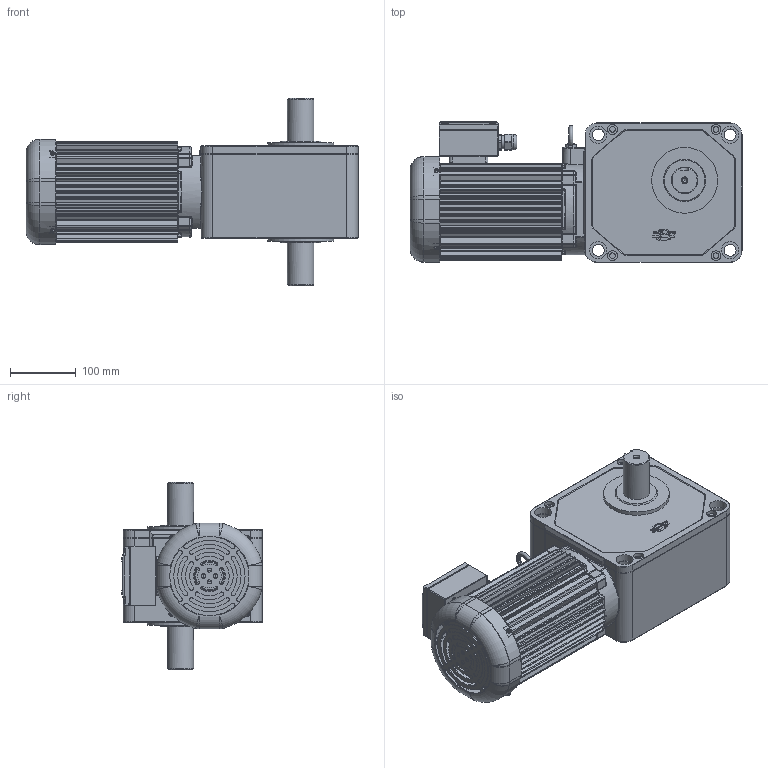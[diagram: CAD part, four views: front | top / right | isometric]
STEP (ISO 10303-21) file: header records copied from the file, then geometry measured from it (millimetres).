
FILE_DESCRIPTION(/* description */ (''),/* implementation_level */ '2;1');
FILE_NAME(/* name */ 'Z:\동력 3D 파일\PCS40B_0.75kW_3D.stp',/* time_stamp */ '2021-11-09T13:14:23+09:00',/* author */ ('jaebok'),/* organization */ (''),/* preprocessor_version */ 'ST-DEVELOPER v18.1',/* originating_system */ 'Autodesk Inventor 2022',/* authorisation */ '');
FILE_SCHEMA (('AUTOMOTIVE_DESIGN { 1 0 10303 214 3 1 1 }'));
Products named in the file (1): 부품65
Bounding box: 503.5 x 213.2 x 284 mm (x, y, z)
Volume: 4227088.2 mm3; surface area: 926217 mm2
Topology: 1 solids, 26 shells, 2186 faces, 5562 edges, 3451 vertices
Faces by surface type: plane 885, cylinder 792, bspline 226, torus 171, cone 64, sphere 48
Full cylindrical faces by diameter (mm): 3.25 x1, 3.5 x4, 3.6 x4, 4 x22, 5 x13, 6 x8, 6.647 x2, 7 x13, 8 x7, 8.5 x4, 10 x1, 12.5 x1, 15 x5, 18 x5, 20 x2, 20.6 x1, 21 x1, 23.6 x1, 25 x1, 26 x12, 30 x1, 36 x1, 40 x3, 44 x1, 64 x2, 73 x1, 85 x2, 90 x2, 100 x2, 125 x1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
Entity records: 75336 total; most frequent: CARTESIAN_POINT 20645, DIRECTION 11233, ORIENTED_EDGE 11002, EDGE_CURVE 5501, AXIS2_PLACEMENT_3D 4341, VERTEX_POINT 3451, LINE 2551, VECTOR 2551
